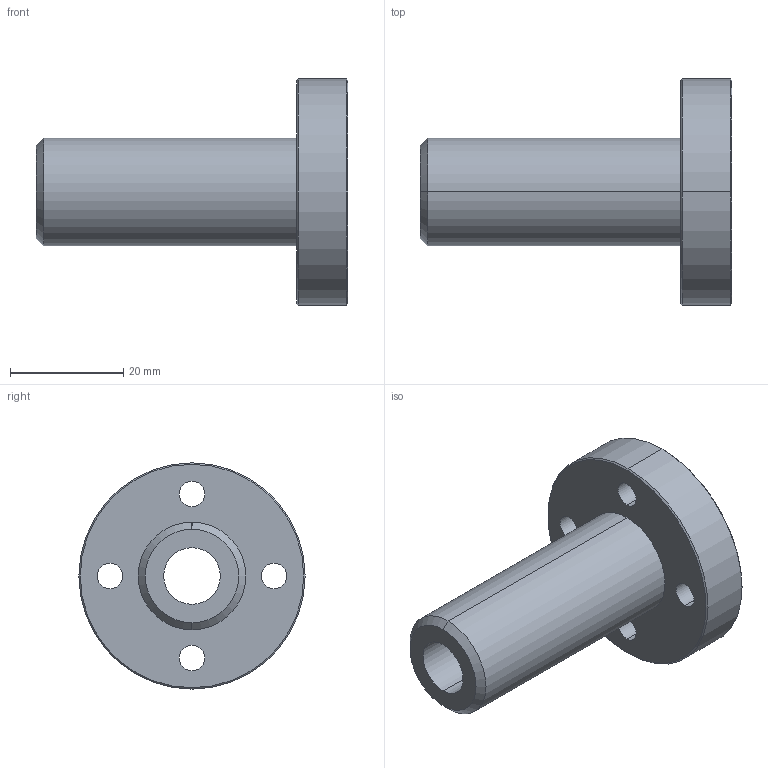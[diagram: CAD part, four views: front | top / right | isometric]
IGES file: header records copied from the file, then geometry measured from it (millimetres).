
Start section: 3D InterOp IGES (Version 21 0 1), Spatial Corp. Copyright (c) 1999-2007.
Global section: file name: DFPJR10.igs; native system: Spatial Corp.; preprocessor: 3D InterOp GENERIC/IGES 3.0; author: Noname; organization: Noname; date: 20220324.144035; units: millimetre
Bounding box: 55 x 40 x 40 mm (x, y, z)
Surface area: 8413.8 mm2 (no closed solid volume)
Topology: 0 solids, 0 shells, 35 faces, 156 edges, 156 vertices
Faces by surface type: revolution 28, extrusion 7
